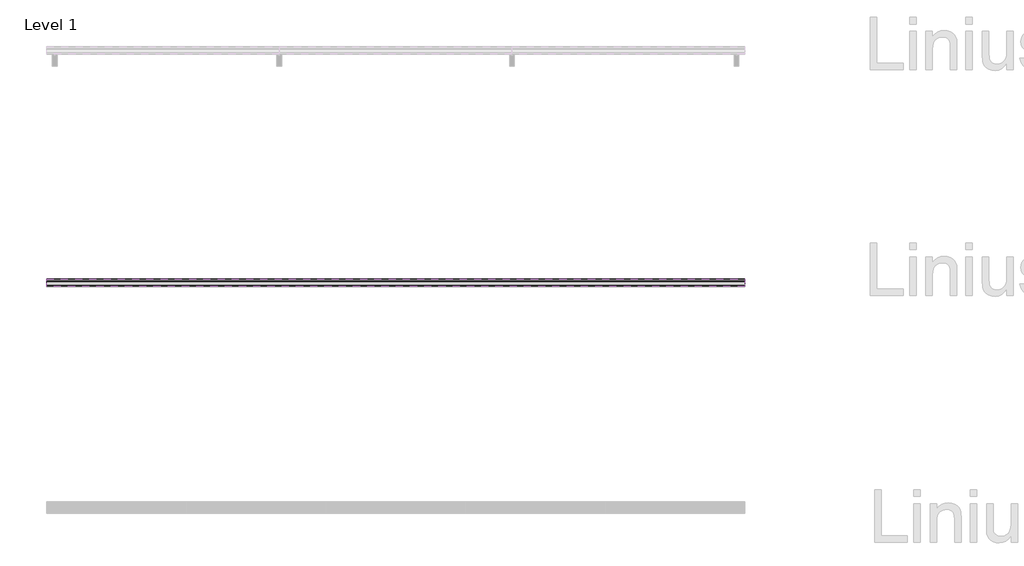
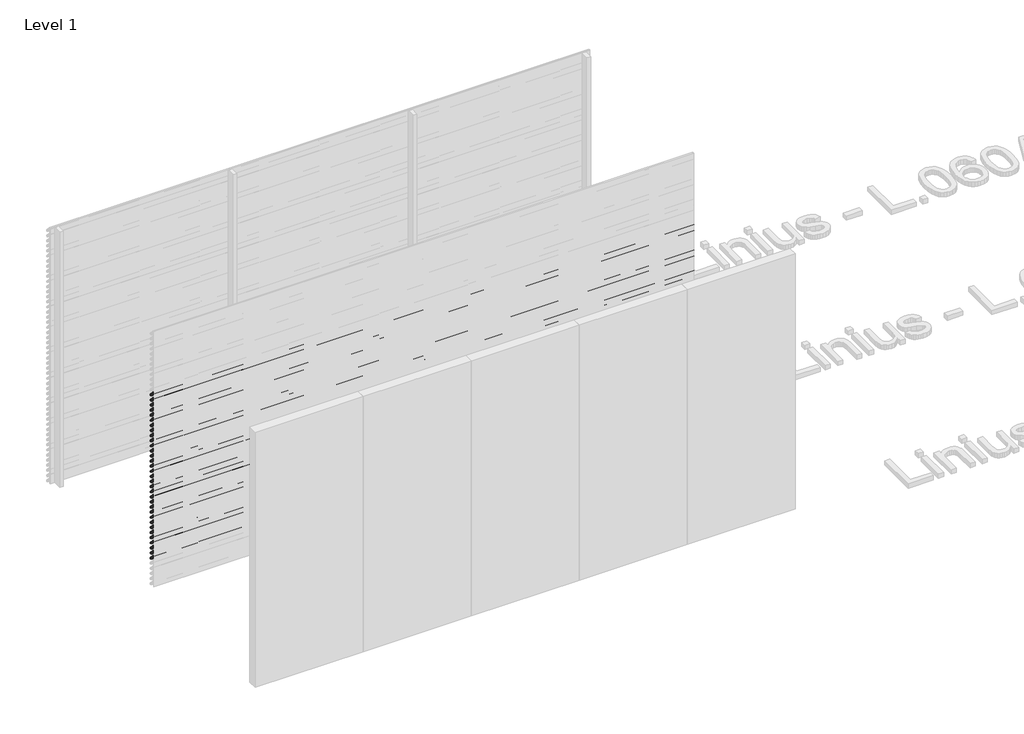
# One storey, part 54 of 153: 33 proxies.
"""IFC4 building model written with IfcOpenShell, lengths in millimetres."""

from ifc_helpers import new_model, si_unit, point, frame, frame_2d, origin, place, context, project, spatial, polyline, circle_curve, trimmed, segment, composite_curve, outline, extrude, element, save

model = new_model("IFC4")

# Units and contexts
model_context = context("Model", 3, world=origin())
ifc_project = project(units=[si_unit("LENGTHUNIT", "METRE", prefix="MILLI")], contexts=[model_context])

# Site, building, storey
site = spatial("IfcSite", under=ifc_project)
building = spatial("IfcBuilding", under=site)
storey = spatial("IfcBuildingStorey", under=building, Name="Level 1", Elevation=0.0)

# Proxies
placement = place(None, origin())
element("IfcBuildingElementProxy", 1, Name="Wall Sweeps", at=placement, inside=storey, context=model_context, shape_type="SweptSolid", body=[
    extrude(outline(composite_curve([segment(polyline([(26985.0540136, 2280.0), (26999.874191, 2278.7034025), (27049.0540136, 2225.0102749), (27049.0540136, 2213.6108187)]), True, "CONTINUOUS"), segment(trimmed(circle_curve(frame_2d((27045.7883652, 2213.897153)), 3.2781774), [point((27049.0540136, 2213.6108187))], [point((27046.4639442, 2210.6893438))], False, "CARTESIAN"), True, "CONTINUOUS"), segment(polyline([(27046.4639442, 2210.6893438), (27034.1895723, 2211.6282758), (26985.0540136, 2265.2730773), (26985.0540136, 2280.0)]), True, "CONTINUOUS")], self_intersect=False), holes=[composite_curve([segment(polyline([(26999.1621773, 2277.2599659), (26986.5540136, 2278.3630372), (26986.5540136, 2265.856213), (27034.8952036, 2213.0786805), (27046.3312542, 2212.2038762)]), True, "CONTINUOUS"), segment(trimmed(circle_curve(frame_2d((27045.7883652, 2213.897153)), 1.7781774), [point((27046.3312542, 2212.2038762))], [point((27047.5540136, 2213.6864389))], True, "CARTESIAN"), True, "CONTINUOUS"), segment(polyline([(27047.5540136, 2213.6864389), (27047.5540136, 2224.4271392), (26999.1621773, 2277.2599659)]), True, "CONTINUOUS")], self_intersect=False)]), frame((44966.6208097, 0.0, 0.0), z_axis=(1.0, 0.0, 0.0), x_axis=(0.0, 1.0, 0.0)), (0.0, 0.0, 1.0), 6000.0),
])
element("IfcBuildingElementProxy", 2, Name="Wall Sweeps", at=placement, inside=storey, context=model_context, shape_type="SweptSolid", body=[
    extrude(outline(composite_curve([segment(polyline([(26985.0540136, 2220.0), (26999.874191, 2218.7034025), (27049.0540136, 2165.0102749), (27049.0540136, 2153.6108187)]), True, "CONTINUOUS"), segment(trimmed(circle_curve(frame_2d((27045.7883652, 2153.897153)), 3.2781774), [point((27049.0540136, 2153.6108187))], [point((27046.4639442, 2150.6893438))], False, "CARTESIAN"), True, "CONTINUOUS"), segment(polyline([(27046.4639442, 2150.6893438), (27034.1895723, 2151.6282758), (26985.0540136, 2205.2730773), (26985.0540136, 2220.0)]), True, "CONTINUOUS")], self_intersect=False), holes=[composite_curve([segment(polyline([(26999.1621773, 2217.2599659), (26986.5540136, 2218.3630372), (26986.5540136, 2205.856213), (27034.8952036, 2153.0786805), (27046.3312542, 2152.2038762)]), True, "CONTINUOUS"), segment(trimmed(circle_curve(frame_2d((27045.7883652, 2153.897153)), 1.7781774), [point((27046.3312542, 2152.2038762))], [point((27047.5540136, 2153.6864389))], True, "CARTESIAN"), True, "CONTINUOUS"), segment(polyline([(27047.5540136, 2153.6864389), (27047.5540136, 2164.4271392), (26999.1621773, 2217.2599659)]), True, "CONTINUOUS")], self_intersect=False)]), frame((44966.6208097, 0.0, 0.0), z_axis=(1.0, 0.0, 0.0), x_axis=(0.0, 1.0, 0.0)), (0.0, 0.0, 1.0), 6000.0),
])
element("IfcBuildingElementProxy", 3, Name="Wall Sweeps", at=placement, inside=storey, context=model_context, shape_type="SweptSolid", body=[
    extrude(outline(composite_curve([segment(polyline([(26985.0540136, 2160.0), (26999.874191, 2158.7034025), (27049.0540136, 2105.0102749), (27049.0540136, 2093.6108187)]), True, "CONTINUOUS"), segment(trimmed(circle_curve(frame_2d((27045.7883652, 2093.897153)), 3.2781774), [point((27049.0540136, 2093.6108187))], [point((27046.4639442, 2090.6893438))], False, "CARTESIAN"), True, "CONTINUOUS"), segment(polyline([(27046.4639442, 2090.6893438), (27034.1895723, 2091.6282758), (26985.0540136, 2145.2730773), (26985.0540136, 2160.0)]), True, "CONTINUOUS")], self_intersect=False), holes=[composite_curve([segment(polyline([(26999.1621773, 2157.2599659), (26986.5540136, 2158.3630372), (26986.5540136, 2145.856213), (27034.8952036, 2093.0786805), (27046.3312542, 2092.2038762)]), True, "CONTINUOUS"), segment(trimmed(circle_curve(frame_2d((27045.7883652, 2093.897153)), 1.7781774), [point((27046.3312542, 2092.2038762))], [point((27047.5540136, 2093.6864389))], True, "CARTESIAN"), True, "CONTINUOUS"), segment(polyline([(27047.5540136, 2093.6864389), (27047.5540136, 2104.4271392), (26999.1621773, 2157.2599659)]), True, "CONTINUOUS")], self_intersect=False)]), frame((44966.6208097, 0.0, 0.0), z_axis=(1.0, 0.0, 0.0), x_axis=(0.0, 1.0, 0.0)), (0.0, 0.0, 1.0), 6000.0),
])
element("IfcBuildingElementProxy", 4, Name="Wall Sweeps", at=placement, inside=storey, context=model_context, shape_type="SweptSolid", body=[
    extrude(outline(composite_curve([segment(polyline([(26985.0540136, 2100.0), (26999.874191, 2098.7034025), (27049.0540136, 2045.0102749), (27049.0540136, 2033.6108187)]), True, "CONTINUOUS"), segment(trimmed(circle_curve(frame_2d((27045.7883652, 2033.897153)), 3.2781774), [point((27049.0540136, 2033.6108187))], [point((27046.4639442, 2030.6893438))], False, "CARTESIAN"), True, "CONTINUOUS"), segment(polyline([(27046.4639442, 2030.6893438), (27034.1895723, 2031.6282758), (26985.0540136, 2085.2730773), (26985.0540136, 2100.0)]), True, "CONTINUOUS")], self_intersect=False), holes=[composite_curve([segment(polyline([(26999.1621773, 2097.2599659), (26986.5540136, 2098.3630372), (26986.5540136, 2085.856213), (27034.8952036, 2033.0786805), (27046.3312542, 2032.2038762)]), True, "CONTINUOUS"), segment(trimmed(circle_curve(frame_2d((27045.7883652, 2033.897153)), 1.7781774), [point((27046.3312542, 2032.2038762))], [point((27047.5540136, 2033.6864389))], True, "CARTESIAN"), True, "CONTINUOUS"), segment(polyline([(27047.5540136, 2033.6864389), (27047.5540136, 2044.4271392), (26999.1621773, 2097.2599659)]), True, "CONTINUOUS")], self_intersect=False)]), frame((44966.6208097, 0.0, 0.0), z_axis=(1.0, 0.0, 0.0), x_axis=(0.0, 1.0, 0.0)), (0.0, 0.0, 1.0), 6000.0),
])
element("IfcBuildingElementProxy", 5, Name="Wall Sweeps", at=placement, inside=storey, context=model_context, shape_type="SweptSolid", body=[
    extrude(outline(composite_curve([segment(polyline([(26985.0540136, 2040.0), (26999.874191, 2038.7034025), (27049.0540136, 1985.0102749), (27049.0540136, 1973.6108187)]), True, "CONTINUOUS"), segment(trimmed(circle_curve(frame_2d((27045.7883652, 1973.897153)), 3.2781774), [point((27049.0540136, 1973.6108187))], [point((27046.4639442, 1970.6893438))], False, "CARTESIAN"), True, "CONTINUOUS"), segment(polyline([(27046.4639442, 1970.6893438), (27034.1895723, 1971.6282758), (26985.0540136, 2025.2730773), (26985.0540136, 2040.0)]), True, "CONTINUOUS")], self_intersect=False), holes=[composite_curve([segment(polyline([(26999.1621773, 2037.2599659), (26986.5540136, 2038.3630372), (26986.5540136, 2025.856213), (27034.8952036, 1973.0786805), (27046.3312542, 1972.2038762)]), True, "CONTINUOUS"), segment(trimmed(circle_curve(frame_2d((27045.7883652, 1973.897153)), 1.7781774), [point((27046.3312542, 1972.2038762))], [point((27047.5540136, 1973.6864389))], True, "CARTESIAN"), True, "CONTINUOUS"), segment(polyline([(27047.5540136, 1973.6864389), (27047.5540136, 1984.4271392), (26999.1621773, 2037.2599659)]), True, "CONTINUOUS")], self_intersect=False)]), frame((44966.6208097, 0.0, 0.0), z_axis=(1.0, 0.0, 0.0), x_axis=(0.0, 1.0, 0.0)), (0.0, 0.0, 1.0), 6000.0),
])
element("IfcBuildingElementProxy", 6, Name="Wall Sweeps", at=placement, inside=storey, context=model_context, shape_type="SweptSolid", body=[
    extrude(outline(composite_curve([segment(polyline([(26985.0540136, 1980.0), (26999.874191, 1978.7034025), (27049.0540136, 1925.0102749), (27049.0540136, 1913.6108187)]), True, "CONTINUOUS"), segment(trimmed(circle_curve(frame_2d((27045.7883652, 1913.897153)), 3.2781774), [point((27049.0540136, 1913.6108187))], [point((27046.4639442, 1910.6893438))], False, "CARTESIAN"), True, "CONTINUOUS"), segment(polyline([(27046.4639442, 1910.6893438), (27034.1895723, 1911.6282758), (26985.0540136, 1965.2730773), (26985.0540136, 1980.0)]), True, "CONTINUOUS")], self_intersect=False), holes=[composite_curve([segment(polyline([(26999.1621773, 1977.2599659), (26986.5540136, 1978.3630372), (26986.5540136, 1965.856213), (27034.8952036, 1913.0786805), (27046.3312542, 1912.2038762)]), True, "CONTINUOUS"), segment(trimmed(circle_curve(frame_2d((27045.7883652, 1913.897153)), 1.7781774), [point((27046.3312542, 1912.2038762))], [point((27047.5540136, 1913.6864389))], True, "CARTESIAN"), True, "CONTINUOUS"), segment(polyline([(27047.5540136, 1913.6864389), (27047.5540136, 1924.4271392), (26999.1621773, 1977.2599659)]), True, "CONTINUOUS")], self_intersect=False)]), frame((44966.6208097, 0.0, 0.0), z_axis=(1.0, 0.0, 0.0), x_axis=(0.0, 1.0, 0.0)), (0.0, 0.0, 1.0), 6000.0),
])
element("IfcBuildingElementProxy", 7, Name="Wall Sweeps", at=placement, inside=storey, context=model_context, shape_type="SweptSolid", body=[
    extrude(outline(composite_curve([segment(polyline([(26985.0540136, 1920.0), (26999.874191, 1918.7034025), (27049.0540136, 1865.0102749), (27049.0540136, 1853.6108187)]), True, "CONTINUOUS"), segment(trimmed(circle_curve(frame_2d((27045.7883652, 1853.897153)), 3.2781774), [point((27049.0540136, 1853.6108187))], [point((27046.4639442, 1850.6893438))], False, "CARTESIAN"), True, "CONTINUOUS"), segment(polyline([(27046.4639442, 1850.6893438), (27034.1895723, 1851.6282758), (26985.0540136, 1905.2730773), (26985.0540136, 1920.0)]), True, "CONTINUOUS")], self_intersect=False), holes=[composite_curve([segment(polyline([(26999.1621773, 1917.2599659), (26986.5540136, 1918.3630372), (26986.5540136, 1905.856213), (27034.8952036, 1853.0786805), (27046.3312542, 1852.2038762)]), True, "CONTINUOUS"), segment(trimmed(circle_curve(frame_2d((27045.7883652, 1853.897153)), 1.7781774), [point((27046.3312542, 1852.2038762))], [point((27047.5540136, 1853.6864389))], True, "CARTESIAN"), True, "CONTINUOUS"), segment(polyline([(27047.5540136, 1853.6864389), (27047.5540136, 1864.4271392), (26999.1621773, 1917.2599659)]), True, "CONTINUOUS")], self_intersect=False)]), frame((44966.6208097, 0.0, 0.0), z_axis=(1.0, 0.0, 0.0), x_axis=(0.0, 1.0, 0.0)), (0.0, 0.0, 1.0), 6000.0),
])
element("IfcBuildingElementProxy", 8, Name="Wall Sweeps", at=placement, inside=storey, context=model_context, shape_type="SweptSolid", body=[
    extrude(outline(composite_curve([segment(polyline([(26985.0540136, 1860.0), (26999.874191, 1858.7034025), (27049.0540136, 1805.0102749), (27049.0540136, 1793.6108187)]), True, "CONTINUOUS"), segment(trimmed(circle_curve(frame_2d((27045.7883652, 1793.897153)), 3.2781774), [point((27049.0540136, 1793.6108187))], [point((27046.4639442, 1790.6893438))], False, "CARTESIAN"), True, "CONTINUOUS"), segment(polyline([(27046.4639442, 1790.6893438), (27034.1895723, 1791.6282758), (26985.0540136, 1845.2730773), (26985.0540136, 1860.0)]), True, "CONTINUOUS")], self_intersect=False), holes=[composite_curve([segment(polyline([(26999.1621773, 1857.2599659), (26986.5540136, 1858.3630372), (26986.5540136, 1845.856213), (27034.8952036, 1793.0786805), (27046.3312542, 1792.2038762)]), True, "CONTINUOUS"), segment(trimmed(circle_curve(frame_2d((27045.7883652, 1793.897153)), 1.7781774), [point((27046.3312542, 1792.2038762))], [point((27047.5540136, 1793.6864389))], True, "CARTESIAN"), True, "CONTINUOUS"), segment(polyline([(27047.5540136, 1793.6864389), (27047.5540136, 1804.4271392), (26999.1621773, 1857.2599659)]), True, "CONTINUOUS")], self_intersect=False)]), frame((44966.6208097, 0.0, 0.0), z_axis=(1.0, 0.0, 0.0), x_axis=(0.0, 1.0, 0.0)), (0.0, 0.0, 1.0), 6000.0),
])
element("IfcBuildingElementProxy", 9, Name="Wall Sweeps", at=placement, inside=storey, context=model_context, shape_type="SweptSolid", body=[
    extrude(outline(composite_curve([segment(polyline([(26985.0540136, 1800.0), (26999.874191, 1798.7034025), (27049.0540136, 1745.0102749), (27049.0540136, 1733.6108187)]), True, "CONTINUOUS"), segment(trimmed(circle_curve(frame_2d((27045.7883652, 1733.897153)), 3.2781774), [point((27049.0540136, 1733.6108187))], [point((27046.4639442, 1730.6893438))], False, "CARTESIAN"), True, "CONTINUOUS"), segment(polyline([(27046.4639442, 1730.6893438), (27034.1895723, 1731.6282758), (26985.0540136, 1785.2730773), (26985.0540136, 1800.0)]), True, "CONTINUOUS")], self_intersect=False), holes=[composite_curve([segment(polyline([(26999.1621773, 1797.2599659), (26986.5540136, 1798.3630372), (26986.5540136, 1785.856213), (27034.8952036, 1733.0786805), (27046.3312542, 1732.2038762)]), True, "CONTINUOUS"), segment(trimmed(circle_curve(frame_2d((27045.7883652, 1733.897153)), 1.7781774), [point((27046.3312542, 1732.2038762))], [point((27047.5540136, 1733.6864389))], True, "CARTESIAN"), True, "CONTINUOUS"), segment(polyline([(27047.5540136, 1733.6864389), (27047.5540136, 1744.4271392), (26999.1621773, 1797.2599659)]), True, "CONTINUOUS")], self_intersect=False)]), frame((44966.6208097, 0.0, 0.0), z_axis=(1.0, 0.0, 0.0), x_axis=(0.0, 1.0, 0.0)), (0.0, 0.0, 1.0), 6000.0),
])
element("IfcBuildingElementProxy", 10, Name="Wall Sweeps", at=placement, inside=storey, context=model_context, shape_type="SweptSolid", body=[
    extrude(outline(composite_curve([segment(polyline([(26985.0540136, 1740.0), (26999.874191, 1738.7034025), (27049.0540136, 1685.0102749), (27049.0540136, 1673.6108187)]), True, "CONTINUOUS"), segment(trimmed(circle_curve(frame_2d((27045.7883652, 1673.897153)), 3.2781774), [point((27049.0540136, 1673.6108187))], [point((27046.4639442, 1670.6893438))], False, "CARTESIAN"), True, "CONTINUOUS"), segment(polyline([(27046.4639442, 1670.6893438), (27034.1895723, 1671.6282758), (26985.0540136, 1725.2730773), (26985.0540136, 1740.0)]), True, "CONTINUOUS")], self_intersect=False), holes=[composite_curve([segment(polyline([(26999.1621773, 1737.2599659), (26986.5540136, 1738.3630372), (26986.5540136, 1725.856213), (27034.8952036, 1673.0786805), (27046.3312542, 1672.2038762)]), True, "CONTINUOUS"), segment(trimmed(circle_curve(frame_2d((27045.7883652, 1673.897153)), 1.7781774), [point((27046.3312542, 1672.2038762))], [point((27047.5540136, 1673.6864389))], True, "CARTESIAN"), True, "CONTINUOUS"), segment(polyline([(27047.5540136, 1673.6864389), (27047.5540136, 1684.4271392), (26999.1621773, 1737.2599659)]), True, "CONTINUOUS")], self_intersect=False)]), frame((44966.6208097, 0.0, 0.0), z_axis=(1.0, 0.0, 0.0), x_axis=(0.0, 1.0, 0.0)), (0.0, 0.0, 1.0), 6000.0),
])
element("IfcBuildingElementProxy", 11, Name="Wall Sweeps", at=placement, inside=storey, context=model_context, shape_type="SweptSolid", body=[
    extrude(outline(composite_curve([segment(polyline([(26985.0540136, 1680.0), (26999.874191, 1678.7034025), (27049.0540136, 1625.0102749), (27049.0540136, 1613.6108187)]), True, "CONTINUOUS"), segment(trimmed(circle_curve(frame_2d((27045.7883652, 1613.897153)), 3.2781774), [point((27049.0540136, 1613.6108187))], [point((27046.4639442, 1610.6893438))], False, "CARTESIAN"), True, "CONTINUOUS"), segment(polyline([(27046.4639442, 1610.6893438), (27034.1895723, 1611.6282758), (26985.0540136, 1665.2730773), (26985.0540136, 1680.0)]), True, "CONTINUOUS")], self_intersect=False), holes=[composite_curve([segment(polyline([(26999.1621773, 1677.2599659), (26986.5540136, 1678.3630372), (26986.5540136, 1665.856213), (27034.8952036, 1613.0786805), (27046.3312542, 1612.2038762)]), True, "CONTINUOUS"), segment(trimmed(circle_curve(frame_2d((27045.7883652, 1613.897153)), 1.7781774), [point((27046.3312542, 1612.2038762))], [point((27047.5540136, 1613.6864389))], True, "CARTESIAN"), True, "CONTINUOUS"), segment(polyline([(27047.5540136, 1613.6864389), (27047.5540136, 1624.4271392), (26999.1621773, 1677.2599659)]), True, "CONTINUOUS")], self_intersect=False)]), frame((44966.6208097, 0.0, 0.0), z_axis=(1.0, 0.0, 0.0), x_axis=(0.0, 1.0, 0.0)), (0.0, 0.0, 1.0), 6000.0),
])
element("IfcBuildingElementProxy", 12, Name="Wall Sweeps", at=placement, inside=storey, context=model_context, shape_type="SweptSolid", body=[
    extrude(outline(composite_curve([segment(polyline([(26985.0540136, 1620.0), (26999.874191, 1618.7034025), (27049.0540136, 1565.0102749), (27049.0540136, 1553.6108187)]), True, "CONTINUOUS"), segment(trimmed(circle_curve(frame_2d((27045.7883652, 1553.897153)), 3.2781774), [point((27049.0540136, 1553.6108187))], [point((27046.4639442, 1550.6893438))], False, "CARTESIAN"), True, "CONTINUOUS"), segment(polyline([(27046.4639442, 1550.6893438), (27034.1895723, 1551.6282758), (26985.0540136, 1605.2730773), (26985.0540136, 1620.0)]), True, "CONTINUOUS")], self_intersect=False), holes=[composite_curve([segment(polyline([(26999.1621773, 1617.2599659), (26986.5540136, 1618.3630372), (26986.5540136, 1605.856213), (27034.8952036, 1553.0786805), (27046.3312542, 1552.2038762)]), True, "CONTINUOUS"), segment(trimmed(circle_curve(frame_2d((27045.7883652, 1553.897153)), 1.7781774), [point((27046.3312542, 1552.2038762))], [point((27047.5540136, 1553.6864389))], True, "CARTESIAN"), True, "CONTINUOUS"), segment(polyline([(27047.5540136, 1553.6864389), (27047.5540136, 1564.4271392), (26999.1621773, 1617.2599659)]), True, "CONTINUOUS")], self_intersect=False)]), frame((44966.6208097, 0.0, 0.0), z_axis=(1.0, 0.0, 0.0), x_axis=(0.0, 1.0, 0.0)), (0.0, 0.0, 1.0), 6000.0),
])
element("IfcBuildingElementProxy", 13, Name="Wall Sweeps", at=placement, inside=storey, context=model_context, shape_type="SweptSolid", body=[
    extrude(outline(composite_curve([segment(polyline([(26985.0540136, 1560.0), (26999.874191, 1558.7034025), (27049.0540136, 1505.0102749), (27049.0540136, 1493.6108187)]), True, "CONTINUOUS"), segment(trimmed(circle_curve(frame_2d((27045.7883652, 1493.897153)), 3.2781774), [point((27049.0540136, 1493.6108187))], [point((27046.4639442, 1490.6893438))], False, "CARTESIAN"), True, "CONTINUOUS"), segment(polyline([(27046.4639442, 1490.6893438), (27034.1895723, 1491.6282758), (26985.0540136, 1545.2730773), (26985.0540136, 1560.0)]), True, "CONTINUOUS")], self_intersect=False), holes=[composite_curve([segment(polyline([(26999.1621773, 1557.2599659), (26986.5540136, 1558.3630372), (26986.5540136, 1545.856213), (27034.8952036, 1493.0786805), (27046.3312542, 1492.2038762)]), True, "CONTINUOUS"), segment(trimmed(circle_curve(frame_2d((27045.7883652, 1493.897153)), 1.7781774), [point((27046.3312542, 1492.2038762))], [point((27047.5540136, 1493.6864389))], True, "CARTESIAN"), True, "CONTINUOUS"), segment(polyline([(27047.5540136, 1493.6864389), (27047.5540136, 1504.4271392), (26999.1621773, 1557.2599659)]), True, "CONTINUOUS")], self_intersect=False)]), frame((44966.6208097, 0.0, 0.0), z_axis=(1.0, 0.0, 0.0), x_axis=(0.0, 1.0, 0.0)), (0.0, 0.0, 1.0), 6000.0),
])
element("IfcBuildingElementProxy", 14, Name="Wall Sweeps", at=placement, inside=storey, context=model_context, shape_type="SweptSolid", body=[
    extrude(outline(composite_curve([segment(polyline([(26985.0540136, 1500.0), (26999.874191, 1498.7034025), (27049.0540136, 1445.0102749), (27049.0540136, 1433.6108187)]), True, "CONTINUOUS"), segment(trimmed(circle_curve(frame_2d((27045.7883652, 1433.897153)), 3.2781774), [point((27049.0540136, 1433.6108187))], [point((27046.4639442, 1430.6893438))], False, "CARTESIAN"), True, "CONTINUOUS"), segment(polyline([(27046.4639442, 1430.6893438), (27034.1895723, 1431.6282758), (26985.0540136, 1485.2730773), (26985.0540136, 1500.0)]), True, "CONTINUOUS")], self_intersect=False), holes=[composite_curve([segment(polyline([(26999.1621773, 1497.2599659), (26986.5540136, 1498.3630372), (26986.5540136, 1485.856213), (27034.8952036, 1433.0786805), (27046.3312542, 1432.2038762)]), True, "CONTINUOUS"), segment(trimmed(circle_curve(frame_2d((27045.7883652, 1433.897153)), 1.7781774), [point((27046.3312542, 1432.2038762))], [point((27047.5540136, 1433.6864389))], True, "CARTESIAN"), True, "CONTINUOUS"), segment(polyline([(27047.5540136, 1433.6864389), (27047.5540136, 1444.4271392), (26999.1621773, 1497.2599659)]), True, "CONTINUOUS")], self_intersect=False)]), frame((44966.6208097, 0.0, 0.0), z_axis=(1.0, 0.0, 0.0), x_axis=(0.0, 1.0, 0.0)), (0.0, 0.0, 1.0), 6000.0),
])
element("IfcBuildingElementProxy", 15, Name="Wall Sweeps", at=placement, inside=storey, context=model_context, shape_type="SweptSolid", body=[
    extrude(outline(composite_curve([segment(polyline([(26985.0540136, 1440.0), (26999.874191, 1438.7034025), (27049.0540136, 1385.0102749), (27049.0540136, 1373.6108187)]), True, "CONTINUOUS"), segment(trimmed(circle_curve(frame_2d((27045.7883652, 1373.897153)), 3.2781774), [point((27049.0540136, 1373.6108187))], [point((27046.4639442, 1370.6893438))], False, "CARTESIAN"), True, "CONTINUOUS"), segment(polyline([(27046.4639442, 1370.6893438), (27034.1895723, 1371.6282758), (26985.0540136, 1425.2730773), (26985.0540136, 1440.0)]), True, "CONTINUOUS")], self_intersect=False), holes=[composite_curve([segment(polyline([(26999.1621773, 1437.2599659), (26986.5540136, 1438.3630372), (26986.5540136, 1425.856213), (27034.8952036, 1373.0786805), (27046.3312542, 1372.2038762)]), True, "CONTINUOUS"), segment(trimmed(circle_curve(frame_2d((27045.7883652, 1373.897153)), 1.7781774), [point((27046.3312542, 1372.2038762))], [point((27047.5540136, 1373.6864389))], True, "CARTESIAN"), True, "CONTINUOUS"), segment(polyline([(27047.5540136, 1373.6864389), (27047.5540136, 1384.4271392), (26999.1621773, 1437.2599659)]), True, "CONTINUOUS")], self_intersect=False)]), frame((44966.6208097, 0.0, 0.0), z_axis=(1.0, 0.0, 0.0), x_axis=(0.0, 1.0, 0.0)), (0.0, 0.0, 1.0), 6000.0),
])
element("IfcBuildingElementProxy", 16, Name="Wall Sweeps", at=placement, inside=storey, context=model_context, shape_type="SweptSolid", body=[
    extrude(outline(composite_curve([segment(polyline([(26985.0540136, 1380.0), (26999.874191, 1378.7034025), (27049.0540136, 1325.0102749), (27049.0540136, 1313.6108187)]), True, "CONTINUOUS"), segment(trimmed(circle_curve(frame_2d((27045.7883652, 1313.897153)), 3.2781774), [point((27049.0540136, 1313.6108187))], [point((27046.4639442, 1310.6893438))], False, "CARTESIAN"), True, "CONTINUOUS"), segment(polyline([(27046.4639442, 1310.6893438), (27034.1895723, 1311.6282758), (26985.0540136, 1365.2730773), (26985.0540136, 1380.0)]), True, "CONTINUOUS")], self_intersect=False), holes=[composite_curve([segment(polyline([(26999.1621773, 1377.2599659), (26986.5540136, 1378.3630372), (26986.5540136, 1365.856213), (27034.8952036, 1313.0786805), (27046.3312542, 1312.2038762)]), True, "CONTINUOUS"), segment(trimmed(circle_curve(frame_2d((27045.7883652, 1313.897153)), 1.7781774), [point((27046.3312542, 1312.2038762))], [point((27047.5540136, 1313.6864389))], True, "CARTESIAN"), True, "CONTINUOUS"), segment(polyline([(27047.5540136, 1313.6864389), (27047.5540136, 1324.4271392), (26999.1621773, 1377.2599659)]), True, "CONTINUOUS")], self_intersect=False)]), frame((44966.6208097, 0.0, 0.0), z_axis=(1.0, 0.0, 0.0), x_axis=(0.0, 1.0, 0.0)), (0.0, 0.0, 1.0), 6000.0),
])
element("IfcBuildingElementProxy", 17, Name="Wall Sweeps", at=placement, inside=storey, context=model_context, shape_type="SweptSolid", body=[
    extrude(outline(composite_curve([segment(polyline([(26985.0540136, 1320.0), (26999.874191, 1318.7034025), (27049.0540136, 1265.0102749), (27049.0540136, 1253.6108187)]), True, "CONTINUOUS"), segment(trimmed(circle_curve(frame_2d((27045.7883652, 1253.897153)), 3.2781774), [point((27049.0540136, 1253.6108187))], [point((27046.4639442, 1250.6893438))], False, "CARTESIAN"), True, "CONTINUOUS"), segment(polyline([(27046.4639442, 1250.6893438), (27034.1895723, 1251.6282758), (26985.0540136, 1305.2730773), (26985.0540136, 1320.0)]), True, "CONTINUOUS")], self_intersect=False), holes=[composite_curve([segment(polyline([(26999.1621773, 1317.2599659), (26986.5540136, 1318.3630372), (26986.5540136, 1305.856213), (27034.8952036, 1253.0786805), (27046.3312542, 1252.2038762)]), True, "CONTINUOUS"), segment(trimmed(circle_curve(frame_2d((27045.7883652, 1253.897153)), 1.7781774), [point((27046.3312542, 1252.2038762))], [point((27047.5540136, 1253.6864389))], True, "CARTESIAN"), True, "CONTINUOUS"), segment(polyline([(27047.5540136, 1253.6864389), (27047.5540136, 1264.4271392), (26999.1621773, 1317.2599659)]), True, "CONTINUOUS")], self_intersect=False)]), frame((44966.6208097, 0.0, 0.0), z_axis=(1.0, 0.0, 0.0), x_axis=(0.0, 1.0, 0.0)), (0.0, 0.0, 1.0), 6000.0),
])
element("IfcBuildingElementProxy", 18, Name="Wall Sweeps", at=placement, inside=storey, context=model_context, shape_type="SweptSolid", body=[
    extrude(outline(composite_curve([segment(polyline([(26985.0540136, 1260.0), (26999.874191, 1258.7034025), (27049.0540136, 1205.0102749), (27049.0540136, 1193.6108187)]), True, "CONTINUOUS"), segment(trimmed(circle_curve(frame_2d((27045.7883652, 1193.897153)), 3.2781774), [point((27049.0540136, 1193.6108187))], [point((27046.4639442, 1190.6893438))], False, "CARTESIAN"), True, "CONTINUOUS"), segment(polyline([(27046.4639442, 1190.6893438), (27034.1895723, 1191.6282758), (26985.0540136, 1245.2730773), (26985.0540136, 1260.0)]), True, "CONTINUOUS")], self_intersect=False), holes=[composite_curve([segment(polyline([(26999.1621773, 1257.2599659), (26986.5540136, 1258.3630372), (26986.5540136, 1245.856213), (27034.8952036, 1193.0786805), (27046.3312542, 1192.2038762)]), True, "CONTINUOUS"), segment(trimmed(circle_curve(frame_2d((27045.7883652, 1193.897153)), 1.7781774), [point((27046.3312542, 1192.2038762))], [point((27047.5540136, 1193.6864389))], True, "CARTESIAN"), True, "CONTINUOUS"), segment(polyline([(27047.5540136, 1193.6864389), (27047.5540136, 1204.4271392), (26999.1621773, 1257.2599659)]), True, "CONTINUOUS")], self_intersect=False)]), frame((44966.6208097, 0.0, 0.0), z_axis=(1.0, 0.0, 0.0), x_axis=(0.0, 1.0, 0.0)), (0.0, 0.0, 1.0), 6000.0),
])
element("IfcBuildingElementProxy", 19, Name="Wall Sweeps", at=placement, inside=storey, context=model_context, shape_type="SweptSolid", body=[
    extrude(outline(composite_curve([segment(polyline([(26985.0540136, 1200.0), (26999.874191, 1198.7034025), (27049.0540136, 1145.0102749), (27049.0540136, 1133.6108187)]), True, "CONTINUOUS"), segment(trimmed(circle_curve(frame_2d((27045.7883652, 1133.897153)), 3.2781774), [point((27049.0540136, 1133.6108187))], [point((27046.4639442, 1130.6893438))], False, "CARTESIAN"), True, "CONTINUOUS"), segment(polyline([(27046.4639442, 1130.6893438), (27034.1895723, 1131.6282758), (26985.0540136, 1185.2730773), (26985.0540136, 1200.0)]), True, "CONTINUOUS")], self_intersect=False), holes=[composite_curve([segment(polyline([(26999.1621773, 1197.2599659), (26986.5540136, 1198.3630372), (26986.5540136, 1185.856213), (27034.8952036, 1133.0786805), (27046.3312542, 1132.2038762)]), True, "CONTINUOUS"), segment(trimmed(circle_curve(frame_2d((27045.7883652, 1133.897153)), 1.7781774), [point((27046.3312542, 1132.2038762))], [point((27047.5540136, 1133.6864389))], True, "CARTESIAN"), True, "CONTINUOUS"), segment(polyline([(27047.5540136, 1133.6864389), (27047.5540136, 1144.4271392), (26999.1621773, 1197.2599659)]), True, "CONTINUOUS")], self_intersect=False)]), frame((44966.6208097, 0.0, 0.0), z_axis=(1.0, 0.0, 0.0), x_axis=(0.0, 1.0, 0.0)), (0.0, 0.0, 1.0), 6000.0),
])
element("IfcBuildingElementProxy", 20, Name="Wall Sweeps", at=placement, inside=storey, context=model_context, shape_type="SweptSolid", body=[
    extrude(outline(composite_curve([segment(polyline([(26985.0540136, 1140.0), (26999.874191, 1138.7034025), (27049.0540136, 1085.0102749), (27049.0540136, 1073.6108187)]), True, "CONTINUOUS"), segment(trimmed(circle_curve(frame_2d((27045.7883652, 1073.897153)), 3.2781774), [point((27049.0540136, 1073.6108187))], [point((27046.4639442, 1070.6893438))], False, "CARTESIAN"), True, "CONTINUOUS"), segment(polyline([(27046.4639442, 1070.6893438), (27034.1895723, 1071.6282758), (26985.0540136, 1125.2730773), (26985.0540136, 1140.0)]), True, "CONTINUOUS")], self_intersect=False), holes=[composite_curve([segment(polyline([(26999.1621773, 1137.2599659), (26986.5540136, 1138.3630372), (26986.5540136, 1125.856213), (27034.8952036, 1073.0786805), (27046.3312542, 1072.2038762)]), True, "CONTINUOUS"), segment(trimmed(circle_curve(frame_2d((27045.7883652, 1073.897153)), 1.7781774), [point((27046.3312542, 1072.2038762))], [point((27047.5540136, 1073.6864389))], True, "CARTESIAN"), True, "CONTINUOUS"), segment(polyline([(27047.5540136, 1073.6864389), (27047.5540136, 1084.4271392), (26999.1621773, 1137.2599659)]), True, "CONTINUOUS")], self_intersect=False)]), frame((44966.6208097, 0.0, 0.0), z_axis=(1.0, 0.0, 0.0), x_axis=(0.0, 1.0, 0.0)), (0.0, 0.0, 1.0), 6000.0),
])
element("IfcBuildingElementProxy", 21, Name="Wall Sweeps", at=placement, inside=storey, context=model_context, shape_type="SweptSolid", body=[
    extrude(outline(composite_curve([segment(polyline([(26985.0540136, 1080.0), (26999.874191, 1078.7034025), (27049.0540136, 1025.0102749), (27049.0540136, 1013.6108187)]), True, "CONTINUOUS"), segment(trimmed(circle_curve(frame_2d((27045.7883652, 1013.897153)), 3.2781774), [point((27049.0540136, 1013.6108187))], [point((27046.4639442, 1010.6893438))], False, "CARTESIAN"), True, "CONTINUOUS"), segment(polyline([(27046.4639442, 1010.6893438), (27034.1895723, 1011.6282758), (26985.0540136, 1065.2730773), (26985.0540136, 1080.0)]), True, "CONTINUOUS")], self_intersect=False), holes=[composite_curve([segment(polyline([(26999.1621773, 1077.2599659), (26986.5540136, 1078.3630372), (26986.5540136, 1065.856213), (27034.8952036, 1013.0786805), (27046.3312542, 1012.2038762)]), True, "CONTINUOUS"), segment(trimmed(circle_curve(frame_2d((27045.7883652, 1013.897153)), 1.7781774), [point((27046.3312542, 1012.2038762))], [point((27047.5540136, 1013.6864389))], True, "CARTESIAN"), True, "CONTINUOUS"), segment(polyline([(27047.5540136, 1013.6864389), (27047.5540136, 1024.4271392), (26999.1621773, 1077.2599659)]), True, "CONTINUOUS")], self_intersect=False)]), frame((44966.6208097, 0.0, 0.0), z_axis=(1.0, 0.0, 0.0), x_axis=(0.0, 1.0, 0.0)), (0.0, 0.0, 1.0), 6000.0),
])
element("IfcBuildingElementProxy", 22, Name="Wall Sweeps", at=placement, inside=storey, context=model_context, shape_type="SweptSolid", body=[
    extrude(outline(composite_curve([segment(polyline([(26985.0540136, 1020.0), (26999.874191, 1018.7034025), (27049.0540136, 965.0102749), (27049.0540136, 953.6108187)]), True, "CONTINUOUS"), segment(trimmed(circle_curve(frame_2d((27045.7883652, 953.897153)), 3.2781774), [point((27049.0540136, 953.6108187))], [point((27046.4639442, 950.6893438))], False, "CARTESIAN"), True, "CONTINUOUS"), segment(polyline([(27046.4639442, 950.6893438), (27034.1895723, 951.6282758), (26985.0540136, 1005.2730773), (26985.0540136, 1020.0)]), True, "CONTINUOUS")], self_intersect=False), holes=[composite_curve([segment(polyline([(26999.1621773, 1017.2599659), (26986.5540136, 1018.3630372), (26986.5540136, 1005.856213), (27034.8952036, 953.0786805), (27046.3312542, 952.2038762)]), True, "CONTINUOUS"), segment(trimmed(circle_curve(frame_2d((27045.7883652, 953.897153)), 1.7781774), [point((27046.3312542, 952.2038762))], [point((27047.5540136, 953.6864389))], True, "CARTESIAN"), True, "CONTINUOUS"), segment(polyline([(27047.5540136, 953.6864389), (27047.5540136, 964.4271392), (26999.1621773, 1017.2599659)]), True, "CONTINUOUS")], self_intersect=False)]), frame((44966.6208097, 0.0, 0.0), z_axis=(1.0, 0.0, 0.0), x_axis=(0.0, 1.0, 0.0)), (0.0, 0.0, 1.0), 6000.0),
])
element("IfcBuildingElementProxy", 23, Name="Wall Sweeps", at=placement, inside=storey, context=model_context, shape_type="SweptSolid", body=[
    extrude(outline(composite_curve([segment(polyline([(26985.0540136, 960.0), (26999.874191, 958.7034025), (27049.0540136, 905.0102749), (27049.0540136, 893.6108187)]), True, "CONTINUOUS"), segment(trimmed(circle_curve(frame_2d((27045.7883652, 893.897153)), 3.2781774), [point((27049.0540136, 893.6108187))], [point((27046.4639442, 890.6893438))], False, "CARTESIAN"), True, "CONTINUOUS"), segment(polyline([(27046.4639442, 890.6893438), (27034.1895723, 891.6282758), (26985.0540136, 945.2730773), (26985.0540136, 960.0)]), True, "CONTINUOUS")], self_intersect=False), holes=[composite_curve([segment(polyline([(26999.1621773, 957.2599659), (26986.5540136, 958.3630372), (26986.5540136, 945.856213), (27034.8952036, 893.0786805), (27046.3312542, 892.2038762)]), True, "CONTINUOUS"), segment(trimmed(circle_curve(frame_2d((27045.7883652, 893.897153)), 1.7781774), [point((27046.3312542, 892.2038762))], [point((27047.5540136, 893.6864389))], True, "CARTESIAN"), True, "CONTINUOUS"), segment(polyline([(27047.5540136, 893.6864389), (27047.5540136, 904.4271392), (26999.1621773, 957.2599659)]), True, "CONTINUOUS")], self_intersect=False)]), frame((44966.6208097, 0.0, 0.0), z_axis=(1.0, 0.0, 0.0), x_axis=(0.0, 1.0, 0.0)), (0.0, 0.0, 1.0), 6000.0),
])
element("IfcBuildingElementProxy", 24, Name="Wall Sweeps", at=placement, inside=storey, context=model_context, shape_type="SweptSolid", body=[
    extrude(outline(composite_curve([segment(polyline([(26985.0540136, 900.0), (26999.874191, 898.7034025), (27049.0540136, 845.0102749), (27049.0540136, 833.6108187)]), True, "CONTINUOUS"), segment(trimmed(circle_curve(frame_2d((27045.7883652, 833.897153)), 3.2781774), [point((27049.0540136, 833.6108187))], [point((27046.4639442, 830.6893438))], False, "CARTESIAN"), True, "CONTINUOUS"), segment(polyline([(27046.4639442, 830.6893438), (27034.1895723, 831.6282758), (26985.0540136, 885.2730773), (26985.0540136, 900.0)]), True, "CONTINUOUS")], self_intersect=False), holes=[composite_curve([segment(polyline([(26999.1621773, 897.2599659), (26986.5540136, 898.3630372), (26986.5540136, 885.856213), (27034.8952036, 833.0786805), (27046.3312542, 832.2038762)]), True, "CONTINUOUS"), segment(trimmed(circle_curve(frame_2d((27045.7883652, 833.897153)), 1.7781774), [point((27046.3312542, 832.2038762))], [point((27047.5540136, 833.6864389))], True, "CARTESIAN"), True, "CONTINUOUS"), segment(polyline([(27047.5540136, 833.6864389), (27047.5540136, 844.4271392), (26999.1621773, 897.2599659)]), True, "CONTINUOUS")], self_intersect=False)]), frame((44966.6208097, 0.0, 0.0), z_axis=(1.0, 0.0, 0.0), x_axis=(0.0, 1.0, 0.0)), (0.0, 0.0, 1.0), 6000.0),
])
element("IfcBuildingElementProxy", 25, Name="Wall Sweeps", at=placement, inside=storey, context=model_context, shape_type="SweptSolid", body=[
    extrude(outline(composite_curve([segment(polyline([(26985.0540136, 840.0), (26999.874191, 838.7034025), (27049.0540136, 785.0102749), (27049.0540136, 773.6108187)]), True, "CONTINUOUS"), segment(trimmed(circle_curve(frame_2d((27045.7883652, 773.897153)), 3.2781774), [point((27049.0540136, 773.6108187))], [point((27046.4639442, 770.6893438))], False, "CARTESIAN"), True, "CONTINUOUS"), segment(polyline([(27046.4639442, 770.6893438), (27034.1895723, 771.6282758), (26985.0540136, 825.2730773), (26985.0540136, 840.0)]), True, "CONTINUOUS")], self_intersect=False), holes=[composite_curve([segment(polyline([(26999.1621773, 837.2599659), (26986.5540136, 838.3630372), (26986.5540136, 825.856213), (27034.8952036, 773.0786805), (27046.3312542, 772.2038762)]), True, "CONTINUOUS"), segment(trimmed(circle_curve(frame_2d((27045.7883652, 773.897153)), 1.7781774), [point((27046.3312542, 772.2038762))], [point((27047.5540136, 773.6864389))], True, "CARTESIAN"), True, "CONTINUOUS"), segment(polyline([(27047.5540136, 773.6864389), (27047.5540136, 784.4271392), (26999.1621773, 837.2599659)]), True, "CONTINUOUS")], self_intersect=False)]), frame((44966.6208097, 0.0, 0.0), z_axis=(1.0, 0.0, 0.0), x_axis=(0.0, 1.0, 0.0)), (0.0, 0.0, 1.0), 6000.0),
])
element("IfcBuildingElementProxy", 26, Name="Wall Sweeps", at=placement, inside=storey, context=model_context, shape_type="SweptSolid", body=[
    extrude(outline(composite_curve([segment(polyline([(26985.0540136, 780.0), (26999.874191, 778.7034025), (27049.0540136, 725.0102749), (27049.0540136, 713.6108187)]), True, "CONTINUOUS"), segment(trimmed(circle_curve(frame_2d((27045.7883652, 713.897153)), 3.2781774), [point((27049.0540136, 713.6108187))], [point((27046.4639442, 710.6893438))], False, "CARTESIAN"), True, "CONTINUOUS"), segment(polyline([(27046.4639442, 710.6893438), (27034.1895723, 711.6282758), (26985.0540136, 765.2730773), (26985.0540136, 780.0)]), True, "CONTINUOUS")], self_intersect=False), holes=[composite_curve([segment(polyline([(26999.1621773, 777.2599659), (26986.5540136, 778.3630372), (26986.5540136, 765.856213), (27034.8952036, 713.0786805), (27046.3312542, 712.2038762)]), True, "CONTINUOUS"), segment(trimmed(circle_curve(frame_2d((27045.7883652, 713.897153)), 1.7781774), [point((27046.3312542, 712.2038762))], [point((27047.5540136, 713.6864389))], True, "CARTESIAN"), True, "CONTINUOUS"), segment(polyline([(27047.5540136, 713.6864389), (27047.5540136, 724.4271392), (26999.1621773, 777.2599659)]), True, "CONTINUOUS")], self_intersect=False)]), frame((44966.6208097, 0.0, 0.0), z_axis=(1.0, 0.0, 0.0), x_axis=(0.0, 1.0, 0.0)), (0.0, 0.0, 1.0), 6000.0),
])
element("IfcBuildingElementProxy", 27, Name="Wall Sweeps", at=placement, inside=storey, context=model_context, shape_type="SweptSolid", body=[
    extrude(outline(composite_curve([segment(polyline([(26985.0540136, 720.0), (26999.874191, 718.7034025), (27049.0540136, 665.0102749), (27049.0540136, 653.6108187)]), True, "CONTINUOUS"), segment(trimmed(circle_curve(frame_2d((27045.7883652, 653.897153)), 3.2781774), [point((27049.0540136, 653.6108187))], [point((27046.4639442, 650.6893438))], False, "CARTESIAN"), True, "CONTINUOUS"), segment(polyline([(27046.4639442, 650.6893438), (27034.1895723, 651.6282758), (26985.0540136, 705.2730773), (26985.0540136, 720.0)]), True, "CONTINUOUS")], self_intersect=False), holes=[composite_curve([segment(polyline([(26999.1621773, 717.2599659), (26986.5540136, 718.3630372), (26986.5540136, 705.856213), (27034.8952036, 653.0786805), (27046.3312542, 652.2038762)]), True, "CONTINUOUS"), segment(trimmed(circle_curve(frame_2d((27045.7883652, 653.897153)), 1.7781774), [point((27046.3312542, 652.2038762))], [point((27047.5540136, 653.6864389))], True, "CARTESIAN"), True, "CONTINUOUS"), segment(polyline([(27047.5540136, 653.6864389), (27047.5540136, 664.4271392), (26999.1621773, 717.2599659)]), True, "CONTINUOUS")], self_intersect=False)]), frame((44966.6208097, 0.0, 0.0), z_axis=(1.0, 0.0, 0.0), x_axis=(0.0, 1.0, 0.0)), (0.0, 0.0, 1.0), 6000.0),
])
element("IfcBuildingElementProxy", 28, Name="Wall Sweeps", at=placement, inside=storey, context=model_context, shape_type="SweptSolid", body=[
    extrude(outline(composite_curve([segment(polyline([(26985.0540136, 660.0), (26999.874191, 658.7034025), (27049.0540136, 605.0102749), (27049.0540136, 593.6108187)]), True, "CONTINUOUS"), segment(trimmed(circle_curve(frame_2d((27045.7883652, 593.897153)), 3.2781774), [point((27049.0540136, 593.6108187))], [point((27046.4639442, 590.6893438))], False, "CARTESIAN"), True, "CONTINUOUS"), segment(polyline([(27046.4639442, 590.6893438), (27034.1895723, 591.6282758), (26985.0540136, 645.2730773), (26985.0540136, 660.0)]), True, "CONTINUOUS")], self_intersect=False), holes=[composite_curve([segment(polyline([(26999.1621773, 657.2599659), (26986.5540136, 658.3630372), (26986.5540136, 645.856213), (27034.8952036, 593.0786805), (27046.3312542, 592.2038762)]), True, "CONTINUOUS"), segment(trimmed(circle_curve(frame_2d((27045.7883652, 593.897153)), 1.7781774), [point((27046.3312542, 592.2038762))], [point((27047.5540136, 593.6864389))], True, "CARTESIAN"), True, "CONTINUOUS"), segment(polyline([(27047.5540136, 593.6864389), (27047.5540136, 604.4271392), (26999.1621773, 657.2599659)]), True, "CONTINUOUS")], self_intersect=False)]), frame((44966.6208097, 0.0, 0.0), z_axis=(1.0, 0.0, 0.0), x_axis=(0.0, 1.0, 0.0)), (0.0, 0.0, 1.0), 6000.0),
])
element("IfcBuildingElementProxy", 29, Name="Wall Sweeps", at=placement, inside=storey, context=model_context, shape_type="SweptSolid", body=[
    extrude(outline(composite_curve([segment(polyline([(26985.0540136, 600.0), (26999.874191, 598.7034025), (27049.0540136, 545.0102749), (27049.0540136, 533.6108187)]), True, "CONTINUOUS"), segment(trimmed(circle_curve(frame_2d((27045.7883652, 533.897153)), 3.2781774), [point((27049.0540136, 533.6108187))], [point((27046.4639442, 530.6893438))], False, "CARTESIAN"), True, "CONTINUOUS"), segment(polyline([(27046.4639442, 530.6893438), (27034.1895723, 531.6282758), (26985.0540136, 585.2730773), (26985.0540136, 600.0)]), True, "CONTINUOUS")], self_intersect=False), holes=[composite_curve([segment(polyline([(26999.1621773, 597.2599659), (26986.5540136, 598.3630372), (26986.5540136, 585.856213), (27034.8952036, 533.0786805), (27046.3312542, 532.2038762)]), True, "CONTINUOUS"), segment(trimmed(circle_curve(frame_2d((27045.7883652, 533.897153)), 1.7781774), [point((27046.3312542, 532.2038762))], [point((27047.5540136, 533.6864389))], True, "CARTESIAN"), True, "CONTINUOUS"), segment(polyline([(27047.5540136, 533.6864389), (27047.5540136, 544.4271392), (26999.1621773, 597.2599659)]), True, "CONTINUOUS")], self_intersect=False)]), frame((44966.6208097, 0.0, 0.0), z_axis=(1.0, 0.0, 0.0), x_axis=(0.0, 1.0, 0.0)), (0.0, 0.0, 1.0), 6000.0),
])
element("IfcBuildingElementProxy", 30, Name="Wall Sweeps", at=placement, inside=storey, context=model_context, shape_type="SweptSolid", body=[
    extrude(outline(composite_curve([segment(polyline([(26985.0540136, 540.0), (26999.874191, 538.7034025), (27049.0540136, 485.0102749), (27049.0540136, 473.6108187)]), True, "CONTINUOUS"), segment(trimmed(circle_curve(frame_2d((27045.7883652, 473.897153)), 3.2781774), [point((27049.0540136, 473.6108187))], [point((27046.4639442, 470.6893438))], False, "CARTESIAN"), True, "CONTINUOUS"), segment(polyline([(27046.4639442, 470.6893438), (27034.1895723, 471.6282758), (26985.0540136, 525.2730773), (26985.0540136, 540.0)]), True, "CONTINUOUS")], self_intersect=False), holes=[composite_curve([segment(polyline([(26999.1621773, 537.2599659), (26986.5540136, 538.3630372), (26986.5540136, 525.856213), (27034.8952036, 473.0786805), (27046.3312542, 472.2038762)]), True, "CONTINUOUS"), segment(trimmed(circle_curve(frame_2d((27045.7883652, 473.897153)), 1.7781774), [point((27046.3312542, 472.2038762))], [point((27047.5540136, 473.6864389))], True, "CARTESIAN"), True, "CONTINUOUS"), segment(polyline([(27047.5540136, 473.6864389), (27047.5540136, 484.4271392), (26999.1621773, 537.2599659)]), True, "CONTINUOUS")], self_intersect=False)]), frame((44966.6208097, 0.0, 0.0), z_axis=(1.0, 0.0, 0.0), x_axis=(0.0, 1.0, 0.0)), (0.0, 0.0, 1.0), 6000.0),
])
element("IfcBuildingElementProxy", 31, Name="Wall Sweeps", at=placement, inside=storey, context=model_context, shape_type="SweptSolid", body=[
    extrude(outline(composite_curve([segment(polyline([(26985.0540136, 480.0), (26999.874191, 478.7034025), (27049.0540136, 425.0102749), (27049.0540136, 413.6108187)]), True, "CONTINUOUS"), segment(trimmed(circle_curve(frame_2d((27045.7883652, 413.897153)), 3.2781774), [point((27049.0540136, 413.6108187))], [point((27046.4639442, 410.6893438))], False, "CARTESIAN"), True, "CONTINUOUS"), segment(polyline([(27046.4639442, 410.6893438), (27034.1895723, 411.6282758), (26985.0540136, 465.2730773), (26985.0540136, 480.0)]), True, "CONTINUOUS")], self_intersect=False), holes=[composite_curve([segment(polyline([(26999.1621773, 477.2599659), (26986.5540136, 478.3630372), (26986.5540136, 465.856213), (27034.8952036, 413.0786805), (27046.3312542, 412.2038762)]), True, "CONTINUOUS"), segment(trimmed(circle_curve(frame_2d((27045.7883652, 413.897153)), 1.7781774), [point((27046.3312542, 412.2038762))], [point((27047.5540136, 413.6864389))], True, "CARTESIAN"), True, "CONTINUOUS"), segment(polyline([(27047.5540136, 413.6864389), (27047.5540136, 424.4271392), (26999.1621773, 477.2599659)]), True, "CONTINUOUS")], self_intersect=False)]), frame((44966.6208097, 0.0, 0.0), z_axis=(1.0, 0.0, 0.0), x_axis=(0.0, 1.0, 0.0)), (0.0, 0.0, 1.0), 6000.0),
])
element("IfcBuildingElementProxy", 32, Name="Wall Sweeps", at=placement, inside=storey, context=model_context, shape_type="SweptSolid", body=[
    extrude(outline(composite_curve([segment(polyline([(26985.0540136, 420.0), (26999.874191, 418.7034025), (27049.0540136, 365.0102749), (27049.0540136, 353.6108187)]), True, "CONTINUOUS"), segment(trimmed(circle_curve(frame_2d((27045.7883652, 353.897153)), 3.2781774), [point((27049.0540136, 353.6108187))], [point((27046.4639442, 350.6893438))], False, "CARTESIAN"), True, "CONTINUOUS"), segment(polyline([(27046.4639442, 350.6893438), (27034.1895723, 351.6282758), (26985.0540136, 405.2730773), (26985.0540136, 420.0)]), True, "CONTINUOUS")], self_intersect=False), holes=[composite_curve([segment(polyline([(26999.1621773, 417.2599659), (26986.5540136, 418.3630372), (26986.5540136, 405.856213), (27034.8952036, 353.0786805), (27046.3312542, 352.2038762)]), True, "CONTINUOUS"), segment(trimmed(circle_curve(frame_2d((27045.7883652, 353.897153)), 1.7781774), [point((27046.3312542, 352.2038762))], [point((27047.5540136, 353.6864389))], True, "CARTESIAN"), True, "CONTINUOUS"), segment(polyline([(27047.5540136, 353.6864389), (27047.5540136, 364.4271392), (26999.1621773, 417.2599659)]), True, "CONTINUOUS")], self_intersect=False)]), frame((44966.6208097, 0.0, 0.0), z_axis=(1.0, 0.0, 0.0), x_axis=(0.0, 1.0, 0.0)), (0.0, 0.0, 1.0), 6000.0),
])
element("IfcBuildingElementProxy", 33, Name="Wall Sweeps", at=placement, inside=storey, context=model_context, shape_type="SweptSolid", body=[
    extrude(outline(composite_curve([segment(polyline([(26985.0540136, 360.0), (26999.874191, 358.7034025), (27049.0540136, 305.0102749), (27049.0540136, 293.6108187)]), True, "CONTINUOUS"), segment(trimmed(circle_curve(frame_2d((27045.7883652, 293.897153)), 3.2781774), [point((27049.0540136, 293.6108187))], [point((27046.4639442, 290.6893438))], False, "CARTESIAN"), True, "CONTINUOUS"), segment(polyline([(27046.4639442, 290.6893438), (27034.1895723, 291.6282758), (26985.0540136, 345.2730773), (26985.0540136, 360.0)]), True, "CONTINUOUS")], self_intersect=False), holes=[composite_curve([segment(polyline([(26999.1621773, 357.2599659), (26986.5540136, 358.3630372), (26986.5540136, 345.856213), (27034.8952036, 293.0786805), (27046.3312542, 292.2038762)]), True, "CONTINUOUS"), segment(trimmed(circle_curve(frame_2d((27045.7883652, 293.897153)), 1.7781774), [point((27046.3312542, 292.2038762))], [point((27047.5540136, 293.6864389))], True, "CARTESIAN"), True, "CONTINUOUS"), segment(polyline([(27047.5540136, 293.6864389), (27047.5540136, 304.4271392), (26999.1621773, 357.2599659)]), True, "CONTINUOUS")], self_intersect=False)]), frame((44966.6208097, 0.0, 0.0), z_axis=(1.0, 0.0, 0.0), x_axis=(0.0, 1.0, 0.0)), (0.0, 0.0, 1.0), 6000.0),
])

save(model, "model.ifc")
